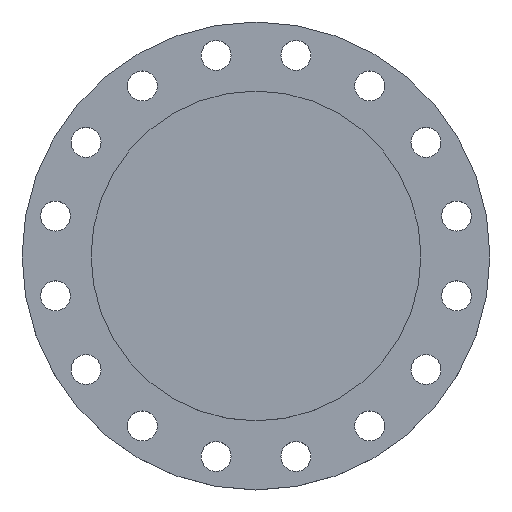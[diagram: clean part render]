
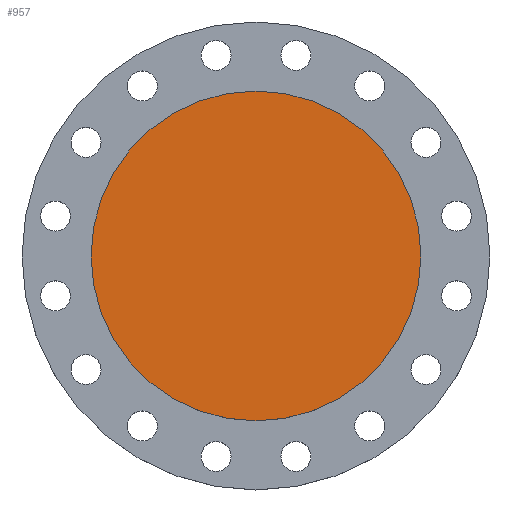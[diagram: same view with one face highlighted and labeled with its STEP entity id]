
A CAD part, top view. The second image highlights one B-rep face of the part: STEP entity #957.
In plain terms, the highlighted planar face has unit normal (0, 0, 1).
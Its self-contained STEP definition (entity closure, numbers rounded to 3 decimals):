
#17 = DIRECTION ( 'NONE',  ( -1., 0., 0. ) ) ;
#18 = DIRECTION ( 'NONE',  ( 0., 0., -1. ) ) ;
#19 = CARTESIAN_POINT ( 'NONE',  ( 0., 0., 0. ) ) ;
#265 = CARTESIAN_POINT ( 'NONE',  ( 181.5, 0., 0. ) ) ;
#399 = VERTEX_POINT ( 'NONE', #265 ) ;
#575 = ORIENTED_EDGE ( 'NONE', *, *, #920, .F. ) ;
#577 = ORIENTED_EDGE ( 'NONE', *, *, #1229, .F. ) ;
#633 = AXIS2_PLACEMENT_3D ( 'NONE', #19, #18, #17 ) ;
#672 = CIRCLE ( 'NONE', #896, 181.5 ) ;
#744 = CIRCLE ( 'NONE', #633, 181.5 ) ;
#766 = AXIS2_PLACEMENT_3D ( 'NONE', #1395, #1393, #1392 ) ;
#896 = AXIS2_PLACEMENT_3D ( 'NONE', #1118, #1115, #1114 ) ;
#920 = EDGE_CURVE ( 'NONE', #1087, #399, #744, .T. ) ;
#943 = EDGE_LOOP ( 'NONE', ( #575, #577 ) ) ;
#957 = ADVANCED_FACE ( 'NONE', ( #1399 ), #1398, .T. ) ;
#1087 = VERTEX_POINT ( 'NONE', #1231 ) ;
#1114 = DIRECTION ( 'NONE',  ( -1., 0., 0. ) ) ;
#1115 = DIRECTION ( 'NONE',  ( 0., 0., -1. ) ) ;
#1118 = CARTESIAN_POINT ( 'NONE',  ( 0., 0., 0. ) ) ;
#1229 = EDGE_CURVE ( 'NONE', #399, #1087, #672, .T. ) ;
#1231 = CARTESIAN_POINT ( 'NONE',  ( -181.5, 0., 0. ) ) ;
#1392 = DIRECTION ( 'NONE',  ( 1., 0., 0. ) ) ;
#1393 = DIRECTION ( 'NONE',  ( 0., 0., 1. ) ) ;
#1395 = CARTESIAN_POINT ( 'NONE',  ( 0., 0., 0. ) ) ;
#1398 = PLANE ( 'NONE',  #766 ) ;
#1399 = FACE_OUTER_BOUND ( 'NONE', #943, .T. ) ;
